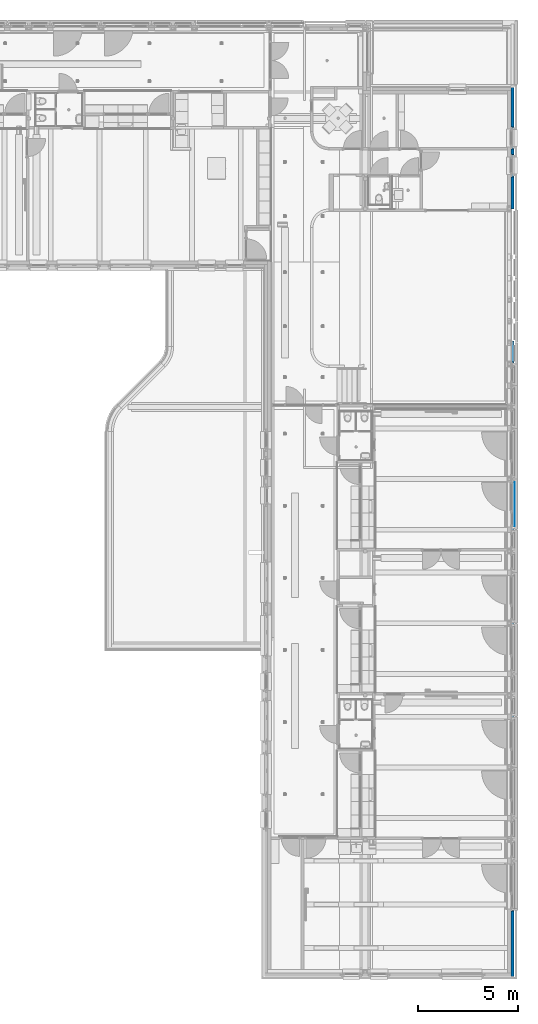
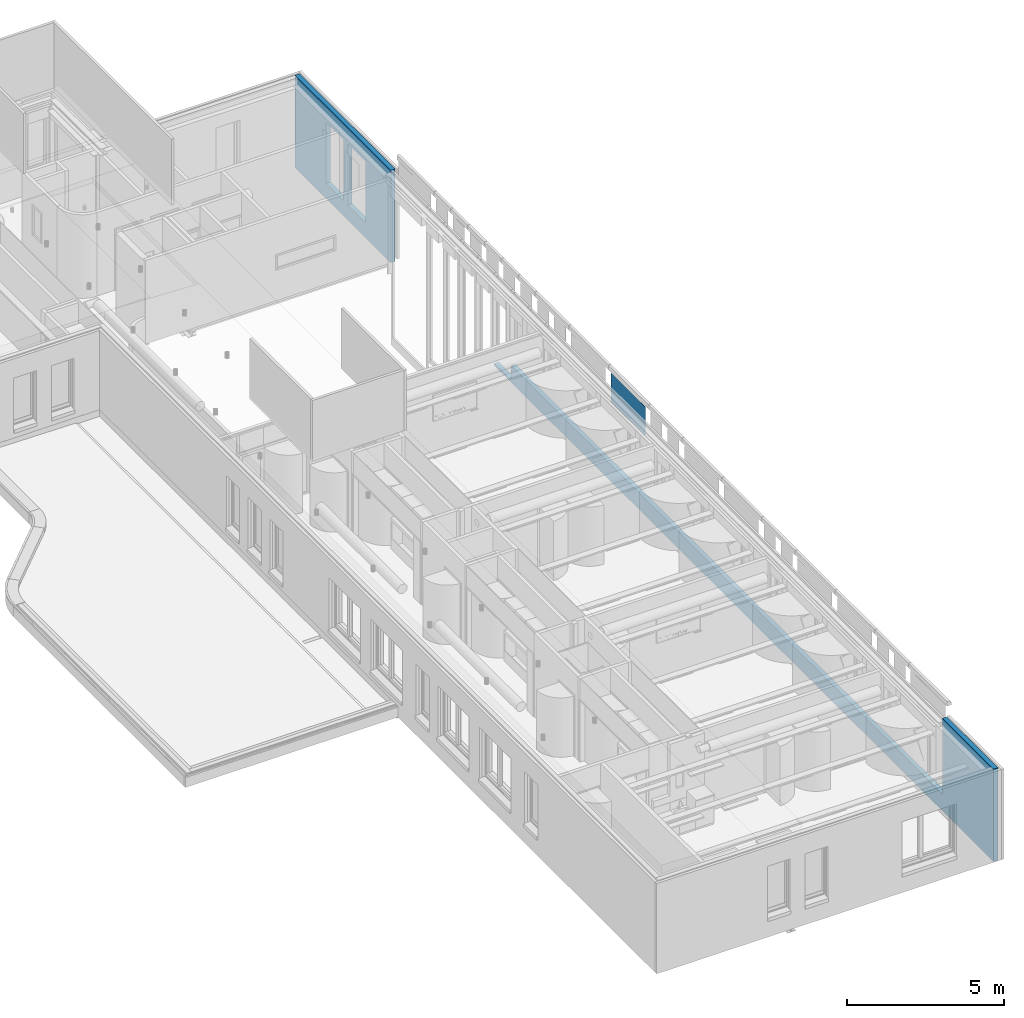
# One storey, part 40 of 128: 2 walls, 41 openings.
"""IFC2X3 building model written with IfcOpenShell, lengths in millimetres."""

from ifc_helpers import new_model, entity, si_unit, converted_unit, derived_unit, direction, frame, frame_2d, origin, origin_2d_with_axis, place, context, subcontext, project, spatial, rectangle, extrude, material, layer, layer_set, layer_usage, type_object, element, save


model = new_model("IFC2X3")

# Units and contexts
model_context = context("Model", 3, precision=0.01, world=origin(), true_north=direction((6.123031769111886e-17, 1.0)))
body_context = subcontext(model_context, "Body", "Model", "MODEL_VIEW")
ifc_project = project(units=[si_unit("LENGTHUNIT", "METRE", prefix="MILLI"), si_unit("AREAUNIT", "SQUARE_METRE"), si_unit("VOLUMEUNIT", "CUBIC_METRE"), converted_unit("PLANEANGLEUNIT", "DEGREE", entity("IfcRatioMeasure", 0.017453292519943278), si_unit("PLANEANGLEUNIT", "RADIAN"), dimensions=[0, 0, 0, 0, 0, 0, 0]), si_unit("MASSUNIT", "GRAM", prefix="KILO"), derived_unit("MASSDENSITYUNIT", [(si_unit("MASSUNIT", "GRAM", prefix="KILO"), 1), (si_unit("LENGTHUNIT", "METRE"), -3)]), derived_unit("IONCONCENTRATIONUNIT", [(si_unit("MASSUNIT", "GRAM", prefix="KILO"), 1), (si_unit("LENGTHUNIT", "METRE"), -3)]), derived_unit("MOMENTOFINERTIAUNIT", [(si_unit("LENGTHUNIT", "METRE"), 4)]), si_unit("TIMEUNIT", "SECOND"), si_unit("FREQUENCYUNIT", "HERTZ"), si_unit("THERMODYNAMICTEMPERATUREUNIT", "DEGREE_CELSIUS"), derived_unit("THERMALTRANSMITTANCEUNIT", [(si_unit("MASSUNIT", "GRAM", prefix="KILO"), 1), (si_unit("THERMODYNAMICTEMPERATUREUNIT", "KELVIN"), -1), (si_unit("TIMEUNIT", "SECOND"), -3)]), derived_unit("THERMALCONDUCTANCEUNIT", [(si_unit("MASSUNIT", "GRAM", prefix="KILO"), 1), (si_unit("THERMODYNAMICTEMPERATUREUNIT", "KELVIN"), -1), (si_unit("TIMEUNIT", "SECOND"), -3), (si_unit("LENGTHUNIT", "METRE"), 1)]), derived_unit("VOLUMETRICFLOWRATEUNIT", [(si_unit("LENGTHUNIT", "METRE"), 3), (si_unit("TIMEUNIT", "SECOND"), -1)]), derived_unit("MASSFLOWRATEUNIT", [(si_unit("MASSUNIT", "GRAM", prefix="KILO"), 1), (si_unit("TIMEUNIT", "SECOND"), -1)]), derived_unit("ROTATIONALFREQUENCYUNIT", [(si_unit("TIMEUNIT", "SECOND"), -1)]), si_unit("ELECTRICCURRENTUNIT", "AMPERE"), si_unit("ELECTRICVOLTAGEUNIT", "VOLT"), si_unit("POWERUNIT", "WATT"), si_unit("FORCEUNIT", "NEWTON", prefix="KILO"), si_unit("ILLUMINANCEUNIT", "LUX"), si_unit("LUMINOUSFLUXUNIT", "LUMEN"), si_unit("LUMINOUSINTENSITYUNIT", "CANDELA"), derived_unit("USERDEFINED", [(si_unit("MASSUNIT", "GRAM", prefix="KILO"), -1), (si_unit("LENGTHUNIT", "METRE"), -2), (si_unit("TIMEUNIT", "SECOND"), 3), (si_unit("LUMINOUSFLUXUNIT", "LUMEN"), 1)]), derived_unit("USERDEFINED", [(si_unit("MASSUNIT", "GRAM", prefix="KILO"), 1), (si_unit("TIMEUNIT", "SECOND"), -3), (si_unit("LENGTHUNIT", "METRE"), 3), (si_unit("ELECTRICCURRENTUNIT", "AMPERE"), -2)]), derived_unit("SOUNDPOWERUNIT", [(si_unit("MASSUNIT", "GRAM", prefix="KILO"), 1), (si_unit("TIMEUNIT", "SECOND"), -3), (si_unit("LENGTHUNIT", "METRE"), 2)]), derived_unit("SOUNDPRESSUREUNIT", [(si_unit("MASSUNIT", "GRAM", prefix="KILO"), 1), (si_unit("LENGTHUNIT", "METRE"), -1), (si_unit("TIMEUNIT", "SECOND"), -2)]), derived_unit("LINEARVELOCITYUNIT", [(si_unit("LENGTHUNIT", "METRE"), 1), (si_unit("TIMEUNIT", "SECOND"), -1)]), si_unit("PRESSUREUNIT", "PASCAL"), derived_unit("USERDEFINED", [(si_unit("MASSUNIT", "GRAM", prefix="KILO"), 1), (si_unit("LENGTHUNIT", "METRE"), -2), (si_unit("TIMEUNIT", "SECOND"), -2)]), derived_unit("LINEARFORCEUNIT", [(si_unit("MASSUNIT", "GRAM", prefix="KILO"), 1), (si_unit("TIMEUNIT", "SECOND"), -2)]), derived_unit("PLANARFORCEUNIT", [(si_unit("MASSUNIT", "GRAM", prefix="KILO"), 1), (si_unit("LENGTHUNIT", "METRE"), -1), (si_unit("TIMEUNIT", "SECOND"), -2)]), derived_unit("SPECIFICHEATCAPACITYUNIT", [(si_unit("THERMODYNAMICTEMPERATUREUNIT", "KELVIN"), -1), (si_unit("LENGTHUNIT", "METRE"), 2), (si_unit("TIMEUNIT", "SECOND"), -2)]), derived_unit("HEATINGVALUEUNIT", [(si_unit("LENGTHUNIT", "METRE"), 2), (si_unit("TIMEUNIT", "SECOND"), -2)]), derived_unit("VAPORPERMEABILITYUNIT", [(si_unit("LENGTHUNIT", "METRE"), -1), (si_unit("TIMEUNIT", "SECOND"), 1)]), derived_unit("DYNAMICVISCOSITYUNIT", [(si_unit("MASSUNIT", "GRAM", prefix="KILO"), 1), (si_unit("TIMEUNIT", "SECOND"), -1), (si_unit("LENGTHUNIT", "METRE"), -1)]), derived_unit("THERMALEXPANSIONCOEFFICIENTUNIT", [(si_unit("THERMODYNAMICTEMPERATUREUNIT", "KELVIN"), -1)]), derived_unit("MODULUSOFELASTICITYUNIT", [(si_unit("MASSUNIT", "GRAM", prefix="KILO"), 1), (si_unit("LENGTHUNIT", "METRE"), -1), (si_unit("TIMEUNIT", "SECOND"), -2)]), derived_unit("ISOTHERMALMOISTURECAPACITYUNIT", [(si_unit("LENGTHUNIT", "METRE"), 3), (si_unit("MASSUNIT", "GRAM", prefix="KILO"), -1)]), derived_unit("MOISTUREDIFFUSIVITYUNIT", [(si_unit("TIMEUNIT", "SECOND"), -1), (si_unit("LENGTHUNIT", "METRE"), 2)])], contexts=[model_context])

# Site, building, storey
site_placement = place(None, frame((0.0, 300.0, 0.0)))
site = spatial("IfcSite", under=ifc_project, at=site_placement, Name="<Kadastrale nummers>", CompositionType="ELEMENT")
building_placement = place(site_placement, origin())
building = spatial("IfcBuilding", under=site, at=building_placement, CompositionType="ELEMENT")
storey_placement = place(building_placement, frame((0.0, 0.0, 3560.0000331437)))
storey = spatial("IfcBuildingStorey", under=building, at=storey_placement, Name="01 eerste verdieping", CompositionType="ELEMENT", Elevation=3560.0000331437)

# Wall, openings
ifc_material_1 = material(Name="ISR_Isolatie")
ifc_layer_1 = layer(ifc_material_1, 160.0)
ifc_layer_set_1 = layer_set([ifc_layer_1], Name="Basic Wall:21_DAT_isolatie minerale wol_160")
ifc_layer_usage_1 = layer_usage(ifc_layer_set_1, "AXIS2", "POSITIVE", -80.0)
wall_type_1 = type_object("IfcWallType", Name="Basic Wall:21_DAT_isolatie minerale wol_160", PredefinedType="STANDARD", material=ifc_layer_set_1)
wall_1_placement = place(storey_placement, frame((48755.0, 2464.998623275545, 0.0), z_axis=(0.0, 0.0, 1.0), x_axis=(0.0, 1.0, 0.0)))
wall_1 = element("IfcWallStandardCase", 1, at=wall_1_placement, inside=storey, type_object=wall_type_1, material=ifc_layer_usage_1, Name="Basic Wall:21_DAT_isolatie minerale wol_160", ObjectType="Basic Wall:21_DAT_isolatie minerale wol_160", context=body_context, shape_type="SweptSolid", body=[
    extrude(rectangle(XDim=44395.001376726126, YDim=159.99999999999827, at=frame_2d((22197.500688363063, 2.2524204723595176e-12), x_axis=(1.0, 0.0))), origin(), (0.0, 0.0, 1.0), 3590.0000018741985),
])
opening_1_placement = place(wall_1_placement, origin())
element("IfcOpeningElement", 2, at=opening_1_placement, cuts=wall_1, Name="Basic Wall:21_DAT_isolatie minerale wol_160", ObjectType="Opening", context=body_context, shape_type="SweptSolid", body=[
    extrude(rectangle(XDim=6756.696699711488, YDim=2295.000000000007, at=frame_2d((4.320099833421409e-12, 0.0), x_axis=(0.0, 1.0))), frame((37167.50137672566, -232.3999999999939, 211.65165201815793), z_axis=(0.0, 1.0, 0.0), x_axis=(-1.0, 0.0, 0.0)), (0.0, 0.0, 1.0), 464.7999999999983),
])
opening_2_placement = place(wall_1_placement, origin())
element("IfcOpeningElement", 3, at=opening_2_placement, cuts=wall_1, Name="Basic Wall:21_DAT_isolatie minerale wol_160", ObjectType="Opening", context=body_context, shape_type="SweptSolid", body=[
    extrude(rectangle(XDim=4124.999999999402, YDim=879.9999999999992, at=frame_2d((-4.320099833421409e-12, -6.821210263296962e-13), x_axis=(0.0, 1.0))), frame((32180.00137672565, -232.39999999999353, 1527.5000018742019), z_axis=(0.0, 1.0, 0.0), x_axis=(-1.0, 0.0, 0.0)), (0.0, 0.0, 1.0), 464.7999999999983),
])
opening_3_placement = place(wall_1_placement, origin())
element("IfcOpeningElement", 4, at=opening_3_placement, cuts=wall_1, Name="Basic Wall:21_DAT_isolatie minerale wol_160", ObjectType="Opening", context=body_context, shape_type="SweptSolid", body=[
    extrude(rectangle(XDim=3499.9999999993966, YDim=190.0000000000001, at=frame_2d((0.0, -9.094947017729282e-13), x_axis=(0.0, 1.0))), frame((31645.001376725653, -232.3999999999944, 1840.0), z_axis=(0.0, 1.0, 0.0), x_axis=(-1.0, 0.0, 0.0)), (0.0, 0.0, 1.0), 464.7999999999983),
])
opening_4_placement = place(wall_1_placement, origin())
element("IfcOpeningElement", 5, at=opening_4_placement, cuts=wall_1, Name="Basic Wall:21_DAT_isolatie minerale wol_160", ObjectType="Opening", context=body_context, shape_type="SweptSolid", body=[
    extrude(rectangle(XDim=3499.9999999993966, YDim=879.9999999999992, at=frame_2d((-4.320099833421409e-12, -9.094947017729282e-13), x_axis=(0.0, 1.0))), frame((31110.00137672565, -232.39999999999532, 1840.0), z_axis=(0.0, 1.0, 0.0), x_axis=(-1.0, 0.0, 0.0)), (0.0, 0.0, 1.0), 464.7999999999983),
])
opening_5_placement = place(wall_1_placement, origin())
element("IfcOpeningElement", 6, at=opening_5_placement, cuts=wall_1, Name="Basic Wall:21_DAT_isolatie minerale wol_160", ObjectType="Opening", context=body_context, shape_type="SweptSolid", body=[
    extrude(rectangle(XDim=2937.499999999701, YDim=190.0000000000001, at=frame_2d((0.0, -2.2737367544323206e-13), x_axis=(0.0, 1.0))), frame((30575.001376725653, -232.3999999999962, 2121.2500018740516), z_axis=(0.0, 1.0, 0.0), x_axis=(-1.0, 0.0, 0.0)), (0.0, 0.0, 1.0), 464.7999999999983),
])
opening_6_placement = place(wall_1_placement, origin())
element("IfcOpeningElement", 7, at=opening_6_placement, cuts=wall_1, Name="Basic Wall:21_DAT_isolatie minerale wol_160", ObjectType="Opening", context=body_context, shape_type="SweptSolid", body=[
    extrude(rectangle(XDim=2937.499999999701, YDim=25099.999999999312, at=frame_2d((0.0, -2.2737367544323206e-13), x_axis=(0.0, 1.0))), frame((15805.001376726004, -232.39999999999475, 2121.2500018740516), z_axis=(0.0, 1.0, 0.0), x_axis=(-1.0, 0.0, 0.0)), (0.0, 0.0, 1.0), 464.7999999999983),
])
opening_7_placement = place(wall_1_placement, origin())
element("IfcOpeningElement", 8, at=opening_7_placement, cuts=wall_1, Name="Basic Wall:21_DAT_isolatie minerale wol_160", ObjectType="Opening", context=body_context, shape_type="SweptSolid", body=[
    extrude(rectangle(XDim=3180.000000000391, YDim=790.0000000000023, at=frame_2d((-3.410605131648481e-13, 0.0), x_axis=(1.0, 0.0))), frame((32180.00137672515, -232.39999999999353, 1239.999966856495), z_axis=(0.0, 1.0, 0.0), x_axis=(0.0, 0.0, 1.0)), (0.0, 0.0, 1.0), 464.7999999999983),
])
opening_8_placement = place(wall_1_placement, origin())
element("IfcOpeningElement", 9, at=opening_8_placement, cuts=wall_1, Name="Basic Wall:21_DAT_isolatie minerale wol_160", ObjectType="Opening", context=body_context, shape_type="SweptSolid", body=[
    extrude(rectangle(XDim=3805.0000000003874, YDim=790.0000000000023, at=frame_2d((2.2737367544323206e-13, 4.348521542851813e-12), x_axis=(1.0, 0.0))), frame((33250.001376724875, -232.39999999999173, 927.4999668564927), z_axis=(0.0, 1.0, 0.0), x_axis=(0.0, 0.0, 1.0)), (0.0, 0.0, 1.0), 464.7999999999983),
])
opening_9_placement = place(wall_1_placement, origin())
element("IfcOpeningElement", 10, at=opening_9_placement, cuts=wall_1, Name="Basic Wall:21_DAT_isolatie minerale wol_160", ObjectType="Opening", context=body_context, shape_type="SweptSolid", body=[
    extrude(rectangle(XDim=4430.000000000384, YDim=790.0000000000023, at=frame_2d((-4.547473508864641e-13, 0.0), x_axis=(1.0, 0.0))), frame((34320.00137672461, -232.39999999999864, 614.9999668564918), z_axis=(0.0, 1.0, 0.0), x_axis=(0.0, 0.0, 1.0)), (0.0, 0.0, 1.0), 464.7999999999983),
])
opening_10_placement = place(wall_1_placement, origin())
element("IfcOpeningElement", 11, at=opening_10_placement, cuts=wall_1, Name="Basic Wall:21_DAT_isolatie minerale wol_160", ObjectType="Opening", context=body_context, shape_type="SweptSolid", body=[
    extrude(rectangle(XDim=5055.000000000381, YDim=790.0000000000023, at=origin_2d_with_axis()), frame((35390.00137672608, -232.39999999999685, 302.4999668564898), z_axis=(0.0, 1.0, 0.0), x_axis=(0.0, 0.0, 1.0)), (0.0, 0.0, 1.0), 464.7999999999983),
])
opening_11_placement = place(wall_1_placement, origin())
element("IfcOpeningElement", 12, at=opening_11_placement, cuts=wall_1, Name="Basic Wall:21_DAT_isolatie minerale wol_160", ObjectType="Opening", context=body_context, shape_type="SweptSolid", body=[
    extrude(rectangle(XDim=5680.000000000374, YDim=2130.0000000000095, at=frame_2d((0.0, 4.320099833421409e-12), x_axis=(1.0, 0.0))), frame((37130.00137672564, -232.39999999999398, -10.000033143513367), z_axis=(0.0, 1.0, 0.0), x_axis=(0.0, 0.0, 1.0)), (0.0, 0.0, 1.0), 464.7999999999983),
])
opening_12_placement = place(wall_1_placement, origin())
element("IfcOpeningElement", 13, at=opening_12_placement, cuts=wall_1, Name="Basic Wall:21_DAT_isolatie minerale wol_160", ObjectType="Opening", context=body_context, shape_type="SweptSolid", body=[
    extrude(rectangle(XDim=2555.000000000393, YDim=790.0000000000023, at=frame_2d((5.684341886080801e-13, -4.348521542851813e-12), x_axis=(1.0, 0.0))), frame((31110.001376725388, -232.39999999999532, 1552.4999668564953), z_axis=(0.0, 1.0, 0.0), x_axis=(0.0, 0.0, 1.0)), (0.0, 0.0, 1.0), 464.7999999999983),
])
opening_13_placement = place(wall_1_placement, origin())
element("IfcOpeningElement", 14, at=opening_13_placement, cuts=wall_1, Name="Basic Wall:21_DAT_isolatie minerale wol_160", ObjectType="Opening", context=body_context, shape_type="SweptSolid", body=[
    extrude(rectangle(XDim=1929.9999649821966, YDim=2249.9999999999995, at=frame_2d((-2.8421709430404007e-13, 0.0), x_axis=(1.0, 0.0))), frame((4500.001376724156, -232.39999999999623, 1864.9999843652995), z_axis=(0.0, 1.0, 0.0), x_axis=(0.0, 0.0, 1.0)), (0.0, 0.0, 1.0), 464.7999999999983),
])
opening_14_placement = place(wall_1_placement, origin())
element("IfcOpeningElement", 15, at=opening_14_placement, cuts=wall_1, Name="Basic Wall:21_DAT_isolatie minerale wol_160", ObjectType="Opening", context=body_context, shape_type="SweptSolid", body=[
    extrude(rectangle(XDim=1929.9999649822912, YDim=790.0000000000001, at=origin_2d_with_axis()), frame((6308.0013767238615, -232.3999999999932, 1864.9999843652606), z_axis=(0.0, 1.0, 0.0), x_axis=(0.0, 0.0, 1.0)), (0.0, 0.0, 1.0), 464.7999999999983),
])
opening_15_placement = place(wall_1_placement, origin())
element("IfcOpeningElement", 16, at=opening_15_placement, cuts=wall_1, Name="Basic Wall:21_DAT_isolatie minerale wol_160", ObjectType="Opening", context=body_context, shape_type="SweptSolid", body=[
    extrude(rectangle(XDim=1929.9999649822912, YDim=789.9999999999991, at=frame_2d((0.0, -5.400124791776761e-13), x_axis=(1.0, 0.0))), frame((7370.001376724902, -232.39999999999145, 1864.9999843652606), z_axis=(0.0, 1.0, 0.0), x_axis=(0.0, 0.0, 1.0)), (0.0, 0.0, 1.0), 464.7999999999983),
])
opening_16_placement = place(wall_1_placement, origin())
element("IfcOpeningElement", 17, at=opening_16_placement, cuts=wall_1, Name="Basic Wall:21_DAT_isolatie minerale wol_160", ObjectType="Opening", context=body_context, shape_type="SweptSolid", body=[
    extrude(rectangle(XDim=1929.9999649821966, YDim=2249.9999999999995, at=frame_2d((-2.8421709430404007e-13, 0.0), x_axis=(1.0, 0.0))), frame((9170.00137672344, -232.3999999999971, 1864.9999843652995), z_axis=(0.0, 1.0, 0.0), x_axis=(0.0, 0.0, 1.0)), (0.0, 0.0, 1.0), 464.7999999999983),
])
opening_17_placement = place(wall_1_placement, origin())
element("IfcOpeningElement", 18, at=opening_17_placement, cuts=wall_1, Name="Basic Wall:21_DAT_isolatie minerale wol_160", ObjectType="Opening", context=body_context, shape_type="SweptSolid", body=[
    extrude(rectangle(XDim=1929.9999649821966, YDim=2249.9999999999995, at=frame_2d((-2.8421709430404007e-13, 0.0), x_axis=(1.0, 0.0))), frame((11700.001376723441, -232.39999999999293, 1864.9999843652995), z_axis=(0.0, 1.0, 0.0), x_axis=(0.0, 0.0, 1.0)), (0.0, 0.0, 1.0), 464.7999999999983),
])
opening_18_placement = place(wall_1_placement, origin())
element("IfcOpeningElement", 19, at=opening_18_placement, cuts=wall_1, Name="Basic Wall:21_DAT_isolatie minerale wol_160", ObjectType="Opening", context=body_context, shape_type="SweptSolid", body=[
    extrude(rectangle(XDim=1929.9999649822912, YDim=790.0000000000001, at=frame_2d((0.0, 1.0800249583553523e-12), x_axis=(1.0, 0.0))), frame((13500.001376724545, -232.3999999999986, 1864.9999843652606), z_axis=(0.0, 1.0, 0.0), x_axis=(0.0, 0.0, 1.0)), (0.0, 0.0, 1.0), 464.7999999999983),
])
opening_19_placement = place(wall_1_placement, origin())
element("IfcOpeningElement", 20, at=opening_19_placement, cuts=wall_1, Name="Basic Wall:21_DAT_isolatie minerale wol_160", ObjectType="Opening", context=body_context, shape_type="SweptSolid", body=[
    extrude(rectangle(XDim=1929.9999649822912, YDim=789.999999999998, at=frame_2d((0.0, 2.1600499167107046e-12), x_axis=(1.0, 0.0))), frame((14570.001376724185, -232.39999999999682, 1864.9999843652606), z_axis=(0.0, 1.0, 0.0), x_axis=(0.0, 0.0, 1.0)), (0.0, 0.0, 1.0), 464.7999999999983),
])
opening_20_placement = place(wall_1_placement, origin())
element("IfcOpeningElement", 21, at=opening_20_placement, cuts=wall_1, Name="Basic Wall:21_DAT_isolatie minerale wol_160", ObjectType="Opening", context=body_context, shape_type="SweptSolid", body=[
    extrude(rectangle(XDim=1929.9999649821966, YDim=2249.9999999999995, at=frame_2d((-2.8421709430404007e-13, 0.0), x_axis=(1.0, 0.0))), frame((16370.001376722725, -232.39999999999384, 1864.9999843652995), z_axis=(0.0, 1.0, 0.0), x_axis=(0.0, 0.0, 1.0)), (0.0, 0.0, 1.0), 464.7999999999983),
])
opening_21_placement = place(wall_1_placement, origin())
element("IfcOpeningElement", 22, at=opening_21_placement, cuts=wall_1, Name="Basic Wall:21_DAT_isolatie minerale wol_160", ObjectType="Opening", context=body_context, shape_type="SweptSolid", body=[
    extrude(rectangle(XDim=1929.9999649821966, YDim=2249.9999999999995, at=frame_2d((-2.8421709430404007e-13, 0.0), x_axis=(1.0, 0.0))), frame((18900.00137672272, -232.39999999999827, 1864.9999843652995), z_axis=(0.0, 1.0, 0.0), x_axis=(0.0, 0.0, 1.0)), (0.0, 0.0, 1.0), 464.7999999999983),
])
opening_22_placement = place(wall_1_placement, origin())
element("IfcOpeningElement", 23, at=opening_22_placement, cuts=wall_1, Name="Basic Wall:21_DAT_isolatie minerale wol_160", ObjectType="Opening", context=body_context, shape_type="SweptSolid", body=[
    extrude(rectangle(XDim=1929.9999649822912, YDim=790.0000000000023, at=origin_2d_with_axis()), frame((20700.001376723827, -232.3999999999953, 1864.9999843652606), z_axis=(0.0, 1.0, 0.0), x_axis=(0.0, 0.0, 1.0)), (0.0, 0.0, 1.0), 464.7999999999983),
])
opening_23_placement = place(wall_1_placement, origin())
element("IfcOpeningElement", 24, at=opening_23_placement, cuts=wall_1, Name="Basic Wall:21_DAT_isolatie minerale wol_160", ObjectType="Opening", context=body_context, shape_type="SweptSolid", body=[
    extrude(rectangle(XDim=1929.9999649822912, YDim=789.9999999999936, at=origin_2d_with_axis()), frame((21770.001376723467, -232.3999999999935, 1864.9999843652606), z_axis=(0.0, 1.0, 0.0), x_axis=(0.0, 0.0, 1.0)), (0.0, 0.0, 1.0), 464.7999999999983),
])
opening_24_placement = place(wall_1_placement, origin())
element("IfcOpeningElement", 25, at=opening_24_placement, cuts=wall_1, Name="Basic Wall:21_DAT_isolatie minerale wol_160", ObjectType="Opening", context=body_context, shape_type="SweptSolid", body=[
    extrude(rectangle(XDim=1929.9999649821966, YDim=2249.9999999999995, at=frame_2d((-2.8421709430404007e-13, 0.0), x_axis=(1.0, 0.0))), frame((23570.001376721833, -232.3999999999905, 1864.9999843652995), z_axis=(0.0, 1.0, 0.0), x_axis=(0.0, 0.0, 1.0)), (0.0, 0.0, 1.0), 464.7999999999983),
])
opening_25_placement = place(wall_1_placement, origin())
element("IfcOpeningElement", 26, at=opening_25_placement, cuts=wall_1, Name="Basic Wall:21_DAT_isolatie minerale wol_160", ObjectType="Opening", context=body_context, shape_type="SweptSolid", body=[
    extrude(rectangle(XDim=1929.9999649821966, YDim=2249.9999999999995, at=frame_2d((-2.8421709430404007e-13, 4.320099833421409e-12), x_axis=(1.0, 0.0))), frame((26100.001376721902, -232.39999999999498, 1864.9999843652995), z_axis=(0.0, 1.0, 0.0), x_axis=(0.0, 0.0, 1.0)), (0.0, 0.0, 1.0), 464.7999999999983),
])
opening_26_placement = place(wall_1_placement, origin())
element("IfcOpeningElement", 27, at=opening_26_placement, cuts=wall_1, Name="Basic Wall:21_DAT_isolatie minerale wol_160", ObjectType="Opening", context=body_context, shape_type="SweptSolid", body=[
    extrude(rectangle(XDim=1929.9999649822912, YDim=790.0000000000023, at=frame_2d((0.0, -4.348521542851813e-12), x_axis=(1.0, 0.0))), frame((27900.001376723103, -232.39999999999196, 1864.9999843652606), z_axis=(0.0, 1.0, 0.0), x_axis=(0.0, 0.0, 1.0)), (0.0, 0.0, 1.0), 464.7999999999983),
])
opening_27_placement = place(wall_1_placement, origin())
element("IfcOpeningElement", 28, at=opening_27_placement, cuts=wall_1, Name="Basic Wall:21_DAT_isolatie minerale wol_160", ObjectType="Opening", context=body_context, shape_type="SweptSolid", body=[
    extrude(rectangle(XDim=1929.9999649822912, YDim=789.9999999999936, at=origin_2d_with_axis()), frame((28970.001376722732, -232.39999999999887, 1864.9999843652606), z_axis=(0.0, 1.0, 0.0), x_axis=(0.0, 0.0, 1.0)), (0.0, 0.0, 1.0), 464.7999999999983),
])
opening_28_placement = place(wall_1_placement, origin())
element("IfcOpeningElement", 29, at=opening_28_placement, cuts=wall_1, Name="Basic Wall:21_DAT_isolatie minerale wol_160", ObjectType="Opening", context=body_context, shape_type="SweptSolid", body=[
    extrude(rectangle(XDim=1929.9999649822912, YDim=789.9999999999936, at=origin_2d_with_axis()), frame((30040.001376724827, -232.39999999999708, 1864.9999843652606), z_axis=(0.0, 1.0, 0.0), x_axis=(0.0, 0.0, 1.0)), (0.0, 0.0, 1.0), 464.7999999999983),
])
opening_29_placement = place(wall_1_placement, origin())
element("IfcOpeningElement", 30, at=opening_29_placement, cuts=wall_1, Name="Basic Wall:21_DAT_isolatie minerale wol_160", ObjectType="Opening", context=body_context, shape_type="SweptSolid", body=[
    extrude(rectangle(XDim=5374.99999999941, YDim=879.9999999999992, at=frame_2d((-4.320099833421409e-12, 0.0), x_axis=(0.0, 1.0))), frame((34320.001376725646, -232.39999999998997, 902.5000018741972), z_axis=(0.0, 1.0, 0.0), x_axis=(-1.0, 0.0, 0.0)), (0.0, 0.0, 1.0), 464.7999999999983),
])
opening_30_placement = place(wall_1_placement, origin())
element("IfcOpeningElement", 31, at=opening_30_placement, cuts=wall_1, Name="Basic Wall:21_DAT_isolatie minerale wol_160", ObjectType="Opening", context=body_context, shape_type="SweptSolid", body=[
    extrude(rectangle(XDim=5374.99999999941, YDim=190.0000000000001, at=frame_2d((0.0, 0.0), x_axis=(0.0, 1.0))), frame((34855.00137672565, -232.39999999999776, 902.5000018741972), z_axis=(0.0, 1.0, 0.0), x_axis=(-1.0, 0.0, 0.0)), (0.0, 0.0, 1.0), 464.7999999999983),
])
opening_31_placement = place(wall_1_placement, origin())
element("IfcOpeningElement", 32, at=opening_31_placement, cuts=wall_1, Name="Basic Wall:21_DAT_isolatie minerale wol_160", ObjectType="Opening", context=body_context, shape_type="SweptSolid", body=[
    extrude(rectangle(XDim=5999.999999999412, YDim=879.9999999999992, at=frame_2d((-4.320099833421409e-12, 0.0), x_axis=(0.0, 1.0))), frame((35390.001376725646, -232.39999999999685, 590.0000018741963), z_axis=(0.0, 1.0, 0.0), x_axis=(-1.0, 0.0, 0.0)), (0.0, 0.0, 1.0), 464.7999999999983),
])
opening_32_placement = place(wall_1_placement, origin())
element("IfcOpeningElement", 33, at=opening_32_placement, cuts=wall_1, Name="Basic Wall:21_DAT_isolatie minerale wol_160", ObjectType="Opening", context=body_context, shape_type="SweptSolid", body=[
    extrude(rectangle(XDim=5999.999999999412, YDim=190.0000000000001, at=frame_2d((0.0, 0.0), x_axis=(0.0, 1.0))), frame((35925.00137672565, -232.39999999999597, 590.0000018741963), z_axis=(0.0, 1.0, 0.0), x_axis=(-1.0, 0.0, 0.0)), (0.0, 0.0, 1.0), 464.7999999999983),
])
opening_33_placement = place(wall_1_placement, origin())
element("IfcOpeningElement", 34, at=opening_33_placement, cuts=wall_1, Name="Basic Wall:21_DAT_isolatie minerale wol_160", ObjectType="Opening", context=body_context, shape_type="SweptSolid", body=[
    extrude(rectangle(XDim=4749.999999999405, YDim=190.0000000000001, at=frame_2d((0.0, 0.0), x_axis=(0.0, 1.0))), frame((33785.00137672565, -232.39999999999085, 1215.0), z_axis=(0.0, 1.0, 0.0), x_axis=(-1.0, 0.0, 0.0)), (0.0, 0.0, 1.0), 464.7999999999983),
])
opening_34_placement = place(wall_1_placement, origin())
element("IfcOpeningElement", 35, at=opening_34_placement, cuts=wall_1, Name="Basic Wall:21_DAT_isolatie minerale wol_160", ObjectType="Opening", context=body_context, shape_type="SweptSolid", body=[
    extrude(rectangle(XDim=4749.999999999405, YDim=879.9999999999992, at=frame_2d((-4.320099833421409e-12, 0.0), x_axis=(0.0, 1.0))), frame((33250.001376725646, -232.39999999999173, 1215.0), z_axis=(0.0, 1.0, 0.0), x_axis=(-1.0, 0.0, 0.0)), (0.0, 0.0, 1.0), 464.7999999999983),
])
opening_35_placement = place(wall_1_placement, origin())
element("IfcOpeningElement", 36, at=opening_35_placement, cuts=wall_1, Name="Basic Wall:21_DAT_isolatie minerale wol_160", ObjectType="Opening", context=body_context, shape_type="SweptSolid", body=[
    extrude(rectangle(XDim=4124.999999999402, YDim=190.0000000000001, at=frame_2d((0.0, -6.821210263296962e-13), x_axis=(0.0, 1.0))), frame((32715.001376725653, -232.39999999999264, 1527.5000018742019), z_axis=(0.0, 1.0, 0.0), x_axis=(-1.0, 0.0, 0.0)), (0.0, 0.0, 1.0), 464.7999999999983),
])
opening_36_placement = place(wall_1_placement, origin())
element("IfcOpeningElement", 37, at=opening_36_placement, cuts=wall_1, Name="Basic Wall:21_DAT_isolatie minerale wol_160", ObjectType="Opening", context=body_context, shape_type="SweptSolid", body=[
    extrude(rectangle(XDim=2937.499999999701, YDim=879.9999999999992, at=frame_2d((-4.320099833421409e-12, -2.2737367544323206e-13), x_axis=(0.0, 1.0))), frame((30040.00137672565, -232.39999999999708, 2121.2500018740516), z_axis=(0.0, 1.0, 0.0), x_axis=(-1.0, 0.0, 0.0)), (0.0, 0.0, 1.0), 464.7999999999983),
])
opening_37_placement = place(wall_1_placement, origin())
element("IfcOpeningElement", 38, at=opening_37_placement, cuts=wall_1, Name="Basic Wall:21_DAT_isolatie minerale wol_160", ObjectType="Opening", context=body_context, shape_type="SweptSolid", body=[
    extrude(rectangle(XDim=2937.499999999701, YDim=169.999999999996, at=frame_2d((0.0, -2.2737367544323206e-13), x_axis=(0.0, 1.0))), frame((29515.001376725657, -232.39999999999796, 2121.2500018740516), z_axis=(0.0, 1.0, 0.0), x_axis=(-1.0, 0.0, 0.0)), (0.0, 0.0, 1.0), 464.7999999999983),
])
opening_38_placement = place(wall_1_placement, origin())
element("IfcOpeningElement", 39, at=opening_38_placement, cuts=wall_1, Name="Basic Wall:21_DAT_isolatie minerale wol_160", ObjectType="Opening", context=body_context, shape_type="SweptSolid", body=[
    extrude(rectangle(XDim=2937.499999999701, YDim=914.9999999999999, at=frame_2d((0.0, -2.2737367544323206e-13), x_axis=(0.0, 1.0))), frame((28972.50137672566, -232.39999999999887, 2121.2500018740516), z_axis=(0.0, 1.0, 0.0), x_axis=(-1.0, 0.0, 0.0)), (0.0, 0.0, 1.0), 464.7999999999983),
])
opening_39_placement = place(wall_1_placement, origin())
element("IfcOpeningElement", 40, at=opening_39_placement, cuts=wall_1, Name="Basic Wall:21_DAT_isolatie minerale wol_160", ObjectType="Opening", context=body_context, shape_type="SweptSolid", body=[
    extrude(rectangle(XDim=2937.499999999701, YDim=159.99999999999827, at=frame_2d((0.0, -2.2737367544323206e-13), x_axis=(0.0, 1.0))), frame((28435.00137672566, -232.39999999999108, 2121.2500018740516), z_axis=(0.0, 1.0, 0.0), x_axis=(-1.0, 0.0, 0.0)), (0.0, 0.0, 1.0), 464.7999999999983),
])
opening_40_placement = place(wall_1_placement, origin())
element("IfcOpeningElement", 41, at=opening_40_placement, cuts=wall_1, Name="Basic Wall:21_DAT_isolatie minerale wol_160", ObjectType="Opening", context=body_context, shape_type="SweptSolid", body=[
    extrude(rectangle(XDim=2375.000035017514, YDim=1119.9999999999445, at=frame_2d((0.0, 4.376943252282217e-12), x_axis=(1.0, 0.0))), frame((41867.12637939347, -232.39999999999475, 1777.4999843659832), z_axis=(0.0, 1.0, 0.0), x_axis=(0.0, 0.0, 1.0)), (0.0, 0.0, 1.0), 464.7999999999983),
])
opening_41_placement = place(wall_1_placement, origin())
element("IfcOpeningElement", 42, at=opening_41_placement, cuts=wall_1, Name="Basic Wall:21_DAT_isolatie minerale wol_160", ObjectType="Opening", context=body_context, shape_type="SweptSolid", body=[
    extrude(rectangle(XDim=2375.000035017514, YDim=1119.9999999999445, at=frame_2d((0.0, 4.376943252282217e-12), x_axis=(1.0, 0.0))), frame((40487.126379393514, -232.39999999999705, 1777.4999843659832), z_axis=(0.0, 1.0, 0.0), x_axis=(0.0, 0.0, 1.0)), (0.0, 0.0, 1.0), 464.7999999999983),
])

# Wall
ifc_material_2 = material(Name="STAAL_RAL 7006")
ifc_layer_2 = layer(ifc_material_2, 2.0)
ifc_layer_set_2 = layer_set([ifc_layer_2], Name="Basic Wall:21_DAT_zetwerk_2")
ifc_layer_usage_2 = layer_usage(ifc_layer_set_2, "AXIS2", "NEGATIVE", 1.000000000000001)
wall_type_2 = type_object("IfcWallType", Name="Basic Wall:21_DAT_zetwerk_2", PredefinedType="STANDARD", material=ifc_layer_set_2)
wall_2_placement = place(storey_placement, frame((48871.0, 27132.0, 2829.9999668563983), z_axis=(0.0, 0.0, 1.0), x_axis=(0.0, -1.0, 0.0)))
element("IfcWallStandardCase", 43, at=wall_2_placement, inside=storey, type_object=wall_type_2, material=ifc_layer_usage_2, Name="Basic Wall:21_DAT_zetwerk_2", ObjectType="Basic Wall:21_DAT_zetwerk_2", context=body_context, shape_type="SweptSolid", body=[
    extrude(rectangle(XDim=2194.0000000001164, YDim=1.9999999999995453, at=frame_2d((1097.0000000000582, 1.3533618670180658e-12), x_axis=(-1.0, 0.0))), origin(), (0.0, 0.0, 1.0), 1120.0000000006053),
])

save(model, "model.ifc")
